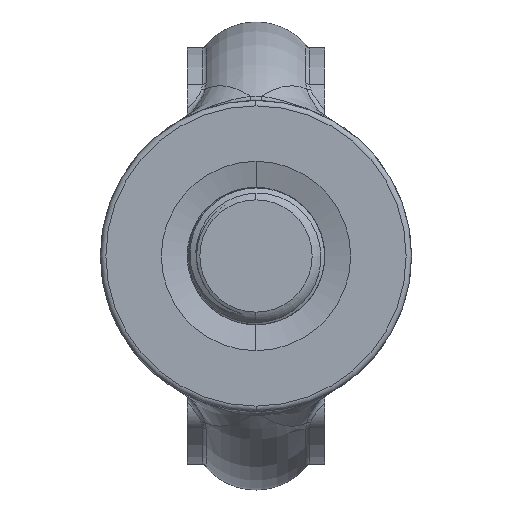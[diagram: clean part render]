
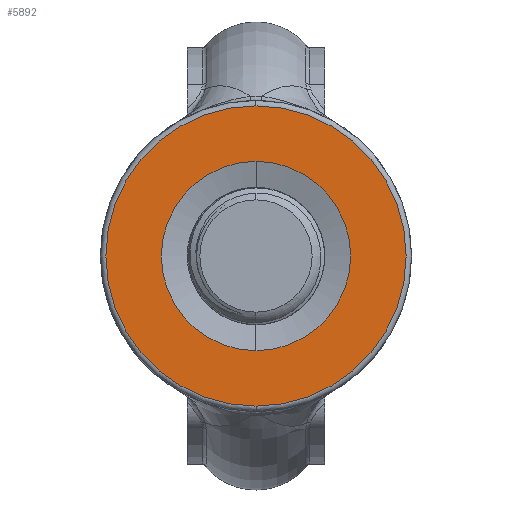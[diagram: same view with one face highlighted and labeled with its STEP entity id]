
A CAD part, left-side view. The second image highlights one B-rep face of the part: STEP entity #5892.
In plain terms, the highlighted planar face has unit normal (-1, 0, 0).
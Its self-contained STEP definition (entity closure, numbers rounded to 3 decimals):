
#125 = EDGE_CURVE ( 'NONE', #10524, #10537, #10607, .T. ) ;
#147 = EDGE_CURVE ( 'NONE', #10544, #10483, #10627, .T. ) ;
#301 = EDGE_CURVE ( 'NONE', #10537, #10524, #10710, .T. ) ;
#302 = EDGE_CURVE ( 'NONE', #10483, #10544, #10705, .T. ) ;
#1256 = PLANE ( 'NONE',  #11880 ) ;
#1258 = CARTESIAN_POINT ( 'NONE',  ( 0., 0., -35. ) ) ;
#1259 = DIRECTION ( 'NONE',  ( 1., 0., 0. ) ) ;
#1260 = DIRECTION ( 'NONE',  ( 0., 0., -1. ) ) ;
#4934 = CARTESIAN_POINT ( 'NONE',  ( 0., 0., 0. ) ) ;
#4935 = DIRECTION ( 'NONE',  ( -1., 0., 0. ) ) ;
#4936 = DIRECTION ( 'NONE',  ( 0., 0., -1. ) ) ;
#4939 = CARTESIAN_POINT ( 'NONE',  ( 0., 0., 0. ) ) ;
#4940 = DIRECTION ( 'NONE',  ( -1., 0., 0. ) ) ;
#4941 = DIRECTION ( 'NONE',  ( 0., 0., 1. ) ) ;
#5766 = AXIS2_PLACEMENT_3D ( 'NONE', #8048, #8094, #8008 ) ;
#5775 = AXIS2_PLACEMENT_3D ( 'NONE', #11607, #11606, #11604 ) ;
#5797 = AXIS2_PLACEMENT_3D ( 'NONE', #4934, #4935, #4936 ) ;
#5798 = AXIS2_PLACEMENT_3D ( 'NONE', #4939, #4940, #4941 ) ;
#5892 = ADVANCED_FACE ( 'NONE', ( #10945, #10939 ), #1256, .F. ) ;
#8008 = DIRECTION ( 'NONE',  ( 0., 0., -1. ) ) ;
#8048 = CARTESIAN_POINT ( 'NONE',  ( 0., 0., 0. ) ) ;
#8094 = DIRECTION ( 'NONE',  ( -1., 0., 0. ) ) ;
#9898 = CARTESIAN_POINT ( 'NONE',  ( 0., 0., 35. ) ) ;
#9936 = CARTESIAN_POINT ( 'NONE',  ( 0., 0., 55.5 ) ) ;
#9949 = CARTESIAN_POINT ( 'NONE',  ( 0., 0., -55.5 ) ) ;
#9956 = CARTESIAN_POINT ( 'NONE',  ( 0., 0., -35. ) ) ;
#10483 = VERTEX_POINT ( 'NONE', #9898 ) ;
#10524 = VERTEX_POINT ( 'NONE', #9936 ) ;
#10537 = VERTEX_POINT ( 'NONE', #9949 ) ;
#10544 = VERTEX_POINT ( 'NONE', #9956 ) ;
#10607 = CIRCLE ( 'NONE', #5766, 55.5 ) ;
#10627 = CIRCLE ( 'NONE', #5775, 35. ) ;
#10705 = CIRCLE ( 'NONE', #5798, 35. ) ;
#10710 = CIRCLE ( 'NONE', #5797, 55.5 ) ;
#10939 = FACE_BOUND ( 'NONE', #11441, .T. ) ;
#10945 = FACE_OUTER_BOUND ( 'NONE', #11439, .T. ) ;
#11254 = ORIENTED_EDGE ( 'NONE', *, *, #301, .T. ) ;
#11257 = ORIENTED_EDGE ( 'NONE', *, *, #125, .T. ) ;
#11270 = ORIENTED_EDGE ( 'NONE', *, *, #147, .F. ) ;
#11271 = ORIENTED_EDGE ( 'NONE', *, *, #302, .F. ) ;
#11439 = EDGE_LOOP ( 'NONE', ( #11254, #11257 ) ) ;
#11441 = EDGE_LOOP ( 'NONE', ( #11271, #11270 ) ) ;
#11604 = DIRECTION ( 'NONE',  ( 0., 0., 1. ) ) ;
#11606 = DIRECTION ( 'NONE',  ( -1., 0., 0. ) ) ;
#11607 = CARTESIAN_POINT ( 'NONE',  ( 0., 0., 0. ) ) ;
#11880 = AXIS2_PLACEMENT_3D ( 'NONE', #1258, #1259, #1260 ) ;
